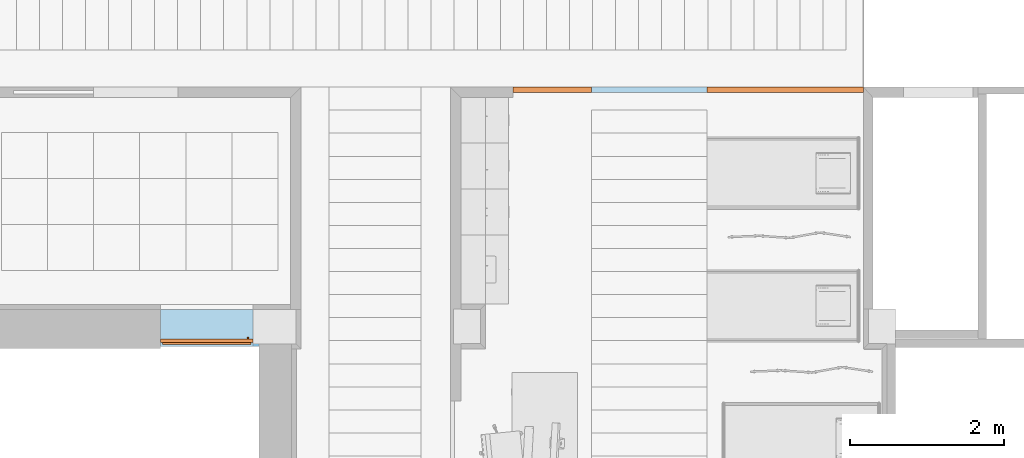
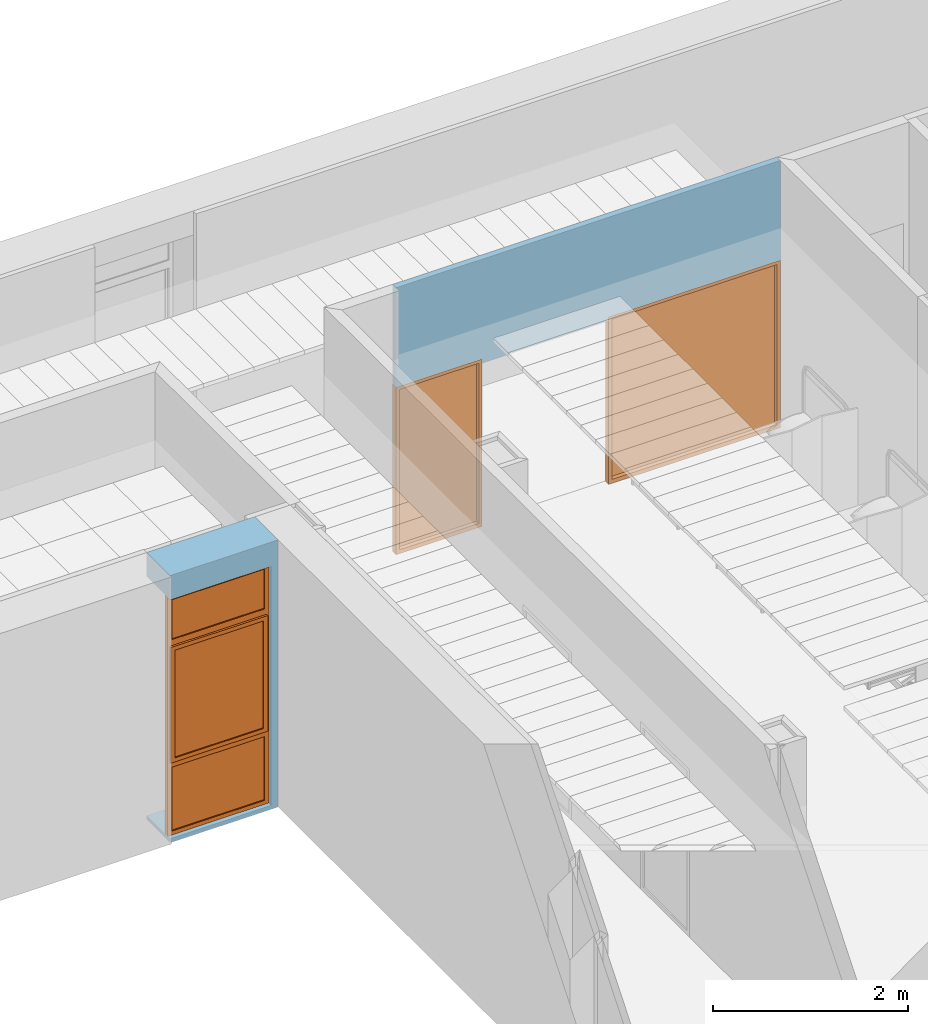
# One storey, part 58 of 68: 3 proxies, 4 openings, plus 2 elements that do not belong to this part.
"""IFC2X3 building model written with IfcOpenShell, lengths in millimetres."""

from ifc_helpers import new_model, entity, si_unit, converted_unit, derived_unit, money_unit, direction, frame, origin_with_axes, origin_2d_with_axis, place, context, subcontext, project, spatial, polyline, rectangle, outline, extrude, open_shell, faceted_brep, surface_model, material, layer, layer_set, layer_usage, type_object, element, fill, save


model = new_model("IFC2X3")

# Units and contexts
model_context = context("Model", 3, precision=0.01, world=origin_with_axes(), true_north=direction((0.0, 1.0)))
body_context = subcontext(model_context, "Body", "Model", "MODEL_VIEW")
ifc_project = project(units=[si_unit("LENGTHUNIT", "METRE", prefix="MILLI"), si_unit("AREAUNIT", "SQUARE_METRE"), si_unit("VOLUMEUNIT", "CUBIC_METRE"), converted_unit("PLANEANGLEUNIT", "DEGREE", entity("IfcPlaneAngleMeasure", 0.0174532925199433), si_unit("PLANEANGLEUNIT", "RADIAN"), dimensions=[0, 0, 0, 0, 0, 0, 0]), money_unit("USD"), converted_unit("TIMEUNIT", "Year", entity("IfcTimeMeasure", 31557600.0), si_unit("TIMEUNIT", "SECOND"), dimensions=[0, 0, 1, 0, 0, 0, 0]), si_unit("MASSUNIT", "GRAM", prefix="KILO"), si_unit("THERMODYNAMICTEMPERATUREUNIT", "DEGREE_CELSIUS"), si_unit("LUMINOUSINTENSITYUNIT", "LUMEN"), si_unit("ENERGYUNIT", "JOULE", prefix="MEGA"), derived_unit("THERMALCONDUCTANCEUNIT", [(si_unit("POWERUNIT", "WATT"), 1), (si_unit("LENGTHUNIT", "METRE"), -1), (si_unit("THERMODYNAMICTEMPERATUREUNIT", "KELVIN"), -1)]), derived_unit("SPECIFICHEATCAPACITYUNIT", [(si_unit("ENERGYUNIT", "JOULE"), 1), (si_unit("MASSUNIT", "GRAM", prefix="KILO"), -1), (si_unit("THERMODYNAMICTEMPERATUREUNIT", "KELVIN"), -1)]), derived_unit("MASSDENSITYUNIT", [(si_unit("MASSUNIT", "GRAM", prefix="KILO"), 1), (si_unit("VOLUMEUNIT", "CUBIC_METRE"), -1)])], contexts=[model_context])

# Site, building, storey
site_placement = place(None, origin_with_axes())
site = spatial("IfcSite", under=ifc_project, at=site_placement, Name="Sitio", CompositionType="ELEMENT")
building_placement = place(site_placement, origin_with_axes())
building = spatial("IfcBuilding", under=site, at=building_placement, Name="Construcción", CompositionType="ELEMENT")
storey_placement = place(building_placement, origin_with_axes())
storey = spatial("IfcBuildingStorey", under=building, at=storey_placement, Name="PLANTA 1ª", CompositionType="ELEMENT", Elevation=0.0)

# Wall, opening, proxy
ifc_material_1 = material(Name="ARQ_AM246_Arrebossat_De_Guix")
ifc_layer_1 = layer(ifc_material_1, 10.0, ventilated="UNKNOWN")
ifc_material_2 = material(Name="ARQ_CE217_Gero")
ifc_layer_2 = layer(ifc_material_2, 120.0, ventilated="UNKNOWN")
ifc_material_3 = material(Name="ARQ_AI031_Aillament_Poliestireno expandido EPS")
ifc_layer_3 = layer(ifc_material_3, 120.0, ventilated="UNKNOWN")
ifc_material_4 = material(Name="ARQ_CE218_Ceramic")
ifc_layer_4 = layer(ifc_material_4, 220.0, ventilated="UNKNOWN")
ifc_layer_5 = layer(ifc_material_1, 10.0, ventilated="UNKNOWN")
ifc_layer_set_1 = layer_set([ifc_layer_1, ifc_layer_2, ifc_layer_3, ifc_layer_4, ifc_layer_5], Name="façana pati CR2 (ampit)")
ifc_layer_usage_1 = layer_usage(ifc_layer_set_1, "AXIS2", "POSITIVE", -480.0)
wall_type_1 = type_object("IfcWallType", Name="façana pati CR2 (ampit) 480", PredefinedType="NOTDEFINED")
wall_1_placement = place(storey_placement, frame((-3383.431355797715, -1193.975823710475, 0.0), z_axis=(0.0, 0.0, 1.0), x_axis=(1.0, 0.0, 0.0)))
wall_1 = element("IfcWallStandardCase", 1, at=wall_1_placement, inside=storey, type_object=wall_type_1, material=ifc_layer_usage_1, Name="MS-200", context=body_context, shape_type="SweptSolid", body=[
    extrude(outline(polyline([(0.0, -480.0), (1282.322350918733, -480.0), (1282.322350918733, 0.0), (0.0, 0.0), (0.0, -480.0)])), origin_with_axes(), (0.0, 0.0, 1.0), 3350.0),
])
opening_1_placement = place(wall_1_placement, frame((599.9999999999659, 0.0, 50.0), z_axis=(0.0, 0.0, 1.0), x_axis=(1.0, 0.0, 0.0)))
opening_1 = element("IfcOpeningElement", 2, at=opening_1_placement, cuts=wall_1, Name="F01", context=body_context, shape_type="SweptSolid", body=[
    extrude(rectangle(XDim=1199.999999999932, YDim=3000.0, at=origin_2d_with_axis()), frame((0.0, -429.9999999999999, 1500.0), z_axis=(0.0, -1.0, 0.0), x_axis=(-1.0, 0.0, 0.0)), (0.0, 0.0, -1.0), 909.9999999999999),
    extrude(rectangle(XDim=1199.999999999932, YDim=3000.0, at=origin_2d_with_axis()), frame((0.0, -429.9999999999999, 1500.0), z_axis=(0.0, 1.0, 0.0), x_axis=(-1.0, 0.0, 0.0)), (0.0, 0.0, -1.0), 530.0),
])
building_element_proxy_type_1 = type_object("IfcBuildingElementProxyType", Name="Ventana Vertical Multi-Faja 27", PredefinedType="NOTDEFINED")
proxy_1_placement = place(opening_1_placement, frame((599.9999999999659, 0.0, 0.0), z_axis=(0.0, 0.0, 1.0), x_axis=(-1.0, 0.0, 0.0)))
proxy_1 = element("IfcBuildingElementProxy", 3, at=proxy_1_placement, inside=storey, type_object=building_element_proxy_type_1, Name="F01", context=body_context, shape_type="SurfaceModel", body=[
    faceted_brep([(24.99999999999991, 429.9999999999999, 925.0), (49.99999999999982, 429.9999999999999, 925.0), (49.99999999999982, 429.9999999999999, 850.0), (49.99999999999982, 429.9999999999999, 50.00000000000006), (0.0, 429.9999999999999, 50.00000000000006), (0.0, 429.9999999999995, 2950.0), (49.99999999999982, 429.9999999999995, 2950.0), (49.99999999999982, 429.9999999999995, 2450.0), (49.99999999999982, 429.9999999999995, 2375.0), (24.99999999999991, 429.9999999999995, 2375.0), (24.99999999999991, 404.9999999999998, 925.0), (49.99999999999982, 404.9999999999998, 925.0), (49.99999999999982, 404.9999999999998, 950.0), (49.99999999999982, 379.9999999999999, 950.0), (49.99999999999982, 379.9999999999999, 850.0), (49.99999999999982, 379.9999999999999, 50.00000000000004), (0.0, 379.9999999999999, 50.00000000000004), (0.0, 379.9999999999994, 2950.0), (49.99999999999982, 379.9999999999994, 2950.0), (49.99999999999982, 379.9999999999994, 2450.0), (49.99999999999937, 404.9999999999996, 2375.0), (49.99999999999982, 379.9999999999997, 2350.0), (49.99999999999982, 404.9999999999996, 2350.0), (24.99999999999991, 404.9999999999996, 2375.0)], [[[0, 1, 2, 3, 4, 5, 6, 7, 8, 9]], [[0, 10, 11, 1]], [[11, 12, 13, 14, 2, 1]], [[3, 2, 14, 15]], [[4, 3, 15, 16]], [[5, 4, 16, 17]], [[6, 5, 17, 18]], [[7, 6, 18, 19]], [[20, 8, 7, 19, 21, 22]], [[20, 23, 9, 8]], [[9, 23, 10, 0]], [[22, 12, 11, 10, 23, 20]], [[22, 21, 13, 12]], [[17, 16, 15, 14, 13, 21, 19, 18]]]),
    faceted_brep([(1174.999999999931, 429.9999999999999, 925.0), (1174.999999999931, 429.9999999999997, 2375.0), (1149.999999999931, 429.9999999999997, 2375.0), (1149.999999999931, 429.9999999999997, 2450.0), (1149.999999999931, 429.9999999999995, 2950.0), (1199.999999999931, 429.9999999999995, 2950.0), (1199.999999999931, 430.0000000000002, 50.00000000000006), (1149.999999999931, 430.0000000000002, 50.00000000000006), (1149.999999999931, 429.9999999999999, 850.0), (1149.999999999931, 429.9999999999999, 925.0), (1174.999999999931, 405.0, 925.0), (1174.999999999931, 404.9999999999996, 2375.0), (1149.999999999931, 404.9999999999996, 2375.0), (1149.999999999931, 404.9999999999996, 2350.0), (1149.999999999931, 379.9999999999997, 2350.0), (1149.999999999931, 379.9999999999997, 2450.0), (1149.999999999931, 379.9999999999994, 2950.0), (1199.999999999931, 379.9999999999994, 2950.0), (1199.999999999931, 380.0000000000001, 50.00000000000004), (1149.999999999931, 380.0000000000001, 50.00000000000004), (1149.999999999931, 379.9999999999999, 850.0), (1149.999999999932, 405.0, 925.0), (1149.999999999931, 379.9999999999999, 950.0), (1149.999999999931, 405.0, 950.0)], [[[0, 1, 2, 3, 4, 5, 6, 7, 8, 9]], [[0, 10, 11, 1]], [[1, 11, 12, 2]], [[12, 13, 14, 15, 3, 2]], [[4, 3, 15, 16]], [[5, 4, 16, 17]], [[6, 5, 17, 18]], [[7, 6, 18, 19]], [[8, 7, 19, 20]], [[21, 9, 8, 20, 22, 23]], [[9, 21, 10, 0]], [[12, 11, 10, 21, 23, 13]], [[23, 22, 14, 13]], [[14, 22, 20, 19, 18, 17, 16, 15]]]),
    faceted_brep([(49.99999999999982, 404.9999999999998, 950.0), (49.99999999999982, 379.9999999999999, 950.0), (1149.999999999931, 379.9999999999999, 950.0), (1149.999999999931, 405.0, 950.0), (49.99999999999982, 404.9999999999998, 925.0), (49.99999999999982, 429.9999999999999, 925.0), (49.99999999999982, 429.9999999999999, 850.0), (49.99999999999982, 379.9999999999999, 850.0), (1149.999999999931, 379.9999999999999, 850.0), (1149.999999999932, 405.0, 925.0), (1149.999999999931, 429.9999999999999, 850.0), (1149.999999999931, 429.9999999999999, 925.0)], [[[0, 1, 2, 3]], [[4, 5, 6, 7, 1, 0]], [[1, 7, 8, 2]], [[9, 3, 2, 8, 10, 11]], [[9, 4, 0, 3]], [[5, 4, 9, 11]], [[11, 10, 6, 5]], [[6, 10, 8, 7]]]),
    faceted_brep([(49.99999999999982, 429.9999999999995, 2375.0), (49.99999999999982, 429.9999999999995, 2450.0), (1149.999999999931, 429.9999999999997, 2450.0), (1149.999999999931, 429.9999999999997, 2375.0), (49.99999999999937, 404.9999999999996, 2375.0), (49.99999999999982, 404.9999999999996, 2350.0), (49.99999999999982, 379.9999999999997, 2350.0), (49.99999999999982, 379.9999999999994, 2450.0), (1149.999999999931, 379.9999999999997, 2450.0), (1149.999999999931, 404.9999999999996, 2375.0), (1149.999999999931, 379.9999999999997, 2350.0), (1149.999999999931, 404.9999999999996, 2350.0)], [[[0, 1, 2, 3]], [[4, 5, 6, 7, 1, 0]], [[2, 1, 7, 8]], [[9, 3, 2, 8, 10, 11]], [[9, 4, 0, 3]], [[11, 5, 4, 9]], [[11, 10, 6, 5]], [[7, 6, 10, 8]]]),
    faceted_brep([(1149.999999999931, 379.9999999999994, 2950.0), (1149.999999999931, 429.9999999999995, 2950.0), (1199.999999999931, 429.9999999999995, 2950.0), (1199.999999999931, 379.9999999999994, 2950.0), (49.99999999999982, 379.9999999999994, 2950.0), (49.99999999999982, 429.9999999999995, 2950.0), (0.0, 429.9999999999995, 2950.0), (0.0, 429.9999999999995, 3000.0), (1199.999999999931, 429.9999999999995, 3000.0), (1199.999999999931, 379.9999999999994, 3000.0), (0.0, 379.9999999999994, 3000.0), (0.0, 379.9999999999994, 2950.0)], [[[0, 1, 2, 3]], [[4, 5, 1, 0]], [[1, 5, 6, 7, 8, 2]], [[3, 2, 8, 9]], [[0, 3, 9, 10, 11, 4]], [[11, 6, 5, 4]], [[10, 7, 6, 11]], [[9, 8, 7, 10]]]),
    faceted_brep([(49.99999999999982, 379.9999999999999, 50.0), (49.99999999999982, 429.9999999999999, 50.0), (0.0, 429.9999999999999, 50.0), (0.0, 379.9999999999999, 50.0), (1149.999999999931, 380.0000000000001, 50.0), (1149.999999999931, 430.0000000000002, 50.0), (1199.999999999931, 430.0000000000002, 50.0), (1199.999999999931, 430.0000000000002, 0.0), (0.0, 429.9999999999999, 0.0), (0.0, 380.0000000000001, 0.0), (1199.999999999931, 380.0000000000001, 0.0), (1199.999999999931, 380.0000000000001, 50.0)], [[[0, 1, 2, 3]], [[4, 5, 1, 0]], [[1, 5, 6, 7, 8, 2]], [[3, 2, 8, 9]], [[0, 3, 9, 10, 11, 4]], [[11, 6, 5, 4]], [[10, 7, 6, 11]], [[9, 8, 7, 10]]]),
    surface_model("IfcShellBasedSurfaceModel", [(49.99999999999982, 395.0, 50.0), (1149.999999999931, 395.0, 50.0), (1149.999999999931, 395.0, 850.0), (49.99999999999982, 394.9999999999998, 850.0)], [open_shell([[[0, 1, 2, 3]]])]),
    surface_model("IfcShellBasedSurfaceModel", [(49.99999999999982, 415.0000000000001, 50.0), (49.99999999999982, 414.9999999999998, 850.0), (1149.999999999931, 415.0000000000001, 850.0), (1149.999999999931, 415.0000000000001, 50.0)], [open_shell([[[0, 1, 2, 3]]])]),
    faceted_brep([(78.49999999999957, 404.9999999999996, 1677.0), (77.16025403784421, 404.9999999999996, 1682.0), (77.16025403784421, 392.9999999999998, 1682.0), (78.49999999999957, 392.9999999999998, 1677.0), (78.49999999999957, 404.9999999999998, 1623.0), (77.16025403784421, 404.9999999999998, 1618.0), (73.49999999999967, 404.9999999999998, 1614.339745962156), (68.49999999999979, 404.9999999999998, 1613.0), (56.49999999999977, 404.9999999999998, 1613.0), (51.49999999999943, 404.9999999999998, 1614.339745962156), (47.83974596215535, 404.9999999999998, 1618.0), (46.49999999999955, 404.9999999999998, 1623.0), (46.49999999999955, 404.9999999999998, 1677.0), (47.83974596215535, 404.9999999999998, 1682.0), (51.49999999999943, 404.9999999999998, 1685.660254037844), (56.49999999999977, 404.9999999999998, 1687.0), (68.49999999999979, 404.9999999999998, 1687.0), (73.49999999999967, 404.9999999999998, 1685.660254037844), (73.49999999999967, 392.9999999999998, 1685.660254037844), (68.49999999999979, 392.9999999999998, 1687.0), (56.49999999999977, 392.9999999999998, 1687.0), (51.49999999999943, 392.9999999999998, 1685.660254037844), (47.83974596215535, 392.9999999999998, 1682.0), (46.49999999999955, 392.9999999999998, 1677.0), (46.49999999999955, 392.9999999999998, 1623.0), (47.83974596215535, 392.9999999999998, 1618.0), (51.49999999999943, 392.9999999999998, 1614.339745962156), (56.49999999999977, 392.9999999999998, 1613.0), (68.49999999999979, 392.9999999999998, 1613.0), (73.49999999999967, 392.9999999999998, 1614.339745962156), (77.16025403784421, 392.9999999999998, 1618.0), (78.49999999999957, 392.9999999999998, 1623.0)], [[[0, 1, 2, 3]], [[0, 4, 5, 6, 7, 8, 9, 10, 11, 12, 13, 14, 15, 16, 17, 1]], [[1, 17, 18, 2]], [[3, 2, 18, 19, 20, 21, 22, 23, 24, 25, 26, 27, 28, 29, 30, 31]], [[4, 0, 3, 31]], [[5, 4, 31, 30]], [[6, 5, 30, 29]], [[7, 6, 29, 28]], [[8, 7, 28, 27]], [[9, 8, 27, 26]], [[10, 9, 26, 25]], [[11, 10, 25, 24]], [[12, 11, 24, 23]], [[13, 12, 23, 22]], [[14, 13, 22, 21]], [[15, 14, 21, 20]], [[16, 15, 20, 19]], [[17, 16, 19, 18]]]),
    faceted_brep([(62.49999999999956, 392.9999999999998, 1663.5), (55.74999999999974, 392.9999999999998, 1661.69134295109), (55.74999999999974, 368.9999999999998, 1661.69134295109), (62.49999999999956, 368.9999999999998, 1663.5), (69.24999999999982, 392.9999999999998, 1661.69134295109), (74.19134295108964, 392.9999999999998, 1656.75), (75.99999999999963, 392.9999999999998, 1650.0), (74.19134295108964, 392.9999999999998, 1643.25), (69.24999999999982, 392.9999999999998, 1638.30865704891), (62.49999999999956, 392.9999999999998, 1636.5), (55.74999999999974, 392.9999999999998, 1638.30865704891), (50.80865704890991, 392.9999999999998, 1643.25), (48.99999999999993, 392.9999999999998, 1650.0), (50.80865704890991, 392.9999999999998, 1656.75), (50.80865704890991, 368.9999999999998, 1656.75), (48.99999999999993, 368.9999999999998, 1650.0), (50.80865704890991, 368.9999999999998, 1643.25), (55.74999999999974, 368.9999999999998, 1638.30865704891), (62.49999999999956, 368.9999999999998, 1636.5), (69.24999999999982, 368.9999999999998, 1638.30865704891), (74.19134295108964, 368.9999999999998, 1643.25), (75.99999999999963, 368.9999999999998, 1650.0), (74.19134295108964, 368.9999999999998, 1656.75), (69.24999999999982, 368.9999999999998, 1661.69134295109)], [[[0, 1, 2, 3]], [[0, 4, 5, 6, 7, 8, 9, 10, 11, 12, 13, 1]], [[1, 13, 14, 2]], [[3, 2, 14, 15, 16, 17, 18, 19, 20, 21, 22, 23]], [[4, 0, 3, 23]], [[5, 4, 23, 22]], [[6, 5, 22, 21]], [[7, 6, 21, 20]], [[8, 7, 20, 19]], [[9, 8, 19, 18]], [[10, 9, 18, 17]], [[11, 10, 17, 16]], [[12, 11, 16, 15]], [[13, 12, 15, 14]]]),
    faceted_brep([(73.9999999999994, 368.9999999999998, 1543.0), (62.49999999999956, 368.9999999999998, 1540.0), (50.99999999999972, 368.9999999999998, 1543.0), (48.99999999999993, 368.9999999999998, 1546.0), (48.99999999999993, 368.9999999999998, 1650.0), (50.80865704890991, 368.9999999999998, 1656.75), (55.74999999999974, 368.9999999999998, 1661.69134295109), (62.49999999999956, 368.9999999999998, 1663.5), (69.24999999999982, 368.9999999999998, 1661.69134295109), (74.19134295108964, 368.9999999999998, 1656.75), (75.99999999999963, 368.9999999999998, 1650.0), (75.99999999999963, 368.9999999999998, 1546.0), (74.0000000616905, 360.9999999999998, 1543.000000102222), (62.50000003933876, 360.9999999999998, 1539.999999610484), (51.00000001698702, 360.9999999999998, 1543.000000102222), (48.99999968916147, 360.9999999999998, 1545.999999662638), (48.99999968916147, 360.9999999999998, 1649.99999994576), (50.80865700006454, 360.9999999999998, 1656.749999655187), (55.7500003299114, 360.9999999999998, 1661.691342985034), (62.50000003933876, 360.9999999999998, 1663.500000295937), (69.24999974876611, 360.9999999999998, 1661.691342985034), (74.19134307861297, 360.9999999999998, 1656.749999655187), (76.00000038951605, 360.9999999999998, 1649.99999994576), (76.00000038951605, 360.9999999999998, 1545.999999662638), (72.13746253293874, 358.000000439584, 1545.61451963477), (62.50000003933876, 358.000000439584, 1543.100398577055), (52.86253754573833, 358.000000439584, 1545.61451963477), (51.99999924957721, 358.000000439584, 1546.908326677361), (51.99999924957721, 358.000000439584, 1649.605042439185), (53.49838296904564, 358.000000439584, 1655.197085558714), (57.30291442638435, 358.000000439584, 1659.001617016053), (62.50000003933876, 358.000000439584, 1660.394172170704), (67.69708565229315, 358.000000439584, 1659.001617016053), (71.50161710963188, 358.000000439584, 1655.197085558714), (73.0000008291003, 358.000000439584, 1649.605042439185), (73.0000008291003, 358.000000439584, 1546.908326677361)], [[[0, 1, 2, 3, 4, 5, 6, 7, 8, 9, 10, 11]], [[1, 0, 12, 13]], [[2, 1, 13, 14]], [[3, 2, 14, 15]], [[4, 3, 15, 16]], [[5, 4, 16, 17]], [[6, 5, 17, 18]], [[7, 6, 18, 19]], [[8, 7, 19, 20]], [[9, 8, 20, 21]], [[10, 9, 21, 22]], [[11, 10, 22, 23]], [[0, 11, 23, 12]], [[13, 12, 24, 25]], [[14, 13, 25, 26]], [[15, 14, 26, 27]], [[16, 15, 27, 28]], [[17, 16, 28, 29]], [[18, 17, 29, 30]], [[19, 18, 30, 31]], [[20, 19, 31, 32]], [[21, 20, 32, 33]], [[22, 21, 33, 34]], [[23, 22, 34, 35]], [[12, 23, 35, 24]], [[26, 25, 24, 35, 34, 33, 32, 31, 30, 29, 28, 27]]]),
    faceted_brep([(74.99999999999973, 404.9999999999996, 2325.0), (74.99999999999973, 454.9999999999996, 2325.0), (24.99999999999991, 454.9999999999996, 2325.0), (24.99999999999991, 404.9999999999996, 2325.0), (74.99999999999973, 404.9999999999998, 975.0000000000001), (74.99999999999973, 454.9999999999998, 975.0000000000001), (24.99999999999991, 454.9999999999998, 975.0000000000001), (24.99999999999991, 404.9999999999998, 975.0000000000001)], [[[0, 1, 2, 3]], [[4, 5, 1, 0]], [[1, 5, 6, 2]], [[3, 2, 6, 7]], [[0, 3, 7, 4]], [[7, 6, 5, 4]]]),
    faceted_brep([(1124.999999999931, 404.9999999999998, 975.0000000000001), (1124.999999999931, 454.9999999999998, 975.0000000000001), (1174.999999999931, 454.9999999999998, 975.0000000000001), (1174.999999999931, 404.9999999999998, 975.0000000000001), (1124.999999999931, 404.9999999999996, 2325.0), (1124.999999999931, 454.9999999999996, 2325.0), (1174.999999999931, 454.9999999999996, 2325.0), (1174.999999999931, 404.9999999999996, 2325.0)], [[[0, 1, 2, 3]], [[4, 5, 1, 0]], [[1, 5, 6, 2]], [[3, 2, 6, 7]], [[0, 3, 7, 4]], [[7, 6, 5, 4]]]),
    faceted_brep([(1174.999999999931, 404.9999999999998, 925.0), (1174.999999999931, 454.9999999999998, 925.0), (1174.999999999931, 454.9999999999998, 975.0000000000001), (1174.999999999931, 404.9999999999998, 975.0000000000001), (24.99999999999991, 404.9999999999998, 925.0), (24.99999999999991, 454.9999999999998, 925.0), (24.99999999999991, 454.9999999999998, 975.0000000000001), (74.99999999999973, 454.9999999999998, 975.0000000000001), (1124.999999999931, 454.9999999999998, 975.0000000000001), (1124.999999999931, 404.9999999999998, 975.0000000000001), (74.99999999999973, 404.9999999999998, 975.0000000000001), (24.99999999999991, 404.9999999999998, 975.0000000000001)], [[[0, 1, 2, 3]], [[4, 5, 1, 0]], [[1, 5, 6, 7, 8, 2]], [[3, 2, 8, 9]], [[0, 3, 9, 10, 11, 4]], [[11, 6, 5, 4]], [[10, 7, 6, 11]], [[9, 8, 7, 10]]]),
    faceted_brep([(24.99999999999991, 404.9999999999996, 2375.0), (24.99999999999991, 454.9999999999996, 2375.0), (24.99999999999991, 454.9999999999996, 2325.0), (24.99999999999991, 404.9999999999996, 2325.0), (1174.999999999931, 404.9999999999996, 2375.0), (1174.999999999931, 454.9999999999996, 2375.0), (1174.999999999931, 454.9999999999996, 2325.0), (1124.999999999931, 454.9999999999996, 2325.0), (74.99999999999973, 454.9999999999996, 2325.0), (74.99999999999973, 404.9999999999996, 2325.0), (1124.999999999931, 404.9999999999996, 2325.0), (1174.999999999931, 404.9999999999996, 2325.0)], [[[0, 1, 2, 3]], [[4, 5, 1, 0]], [[1, 5, 6, 7, 8, 2]], [[3, 2, 8, 9]], [[0, 3, 9, 10, 11, 4]], [[11, 6, 5, 4]], [[10, 7, 6, 11]], [[9, 8, 7, 10]]]),
    surface_model("IfcShellBasedSurfaceModel", [(74.99999999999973, 419.9999999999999, 975.0000000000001), (1124.999999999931, 419.9999999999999, 975.0000000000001), (1124.999999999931, 419.9999999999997, 2325.0), (74.99999999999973, 419.9999999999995, 2325.0)], [open_shell([[[0, 1, 2, 3]]])]),
    surface_model("IfcShellBasedSurfaceModel", [(74.99999999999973, 439.9999999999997, 975.0000000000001), (74.99999999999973, 439.9999999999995, 2325.0), (1124.999999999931, 439.9999999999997, 2325.0), (1124.999999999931, 439.9999999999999, 975.0000000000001)], [open_shell([[[0, 1, 2, 3]]])]),
    surface_model("IfcShellBasedSurfaceModel", [(49.99999999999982, 394.9999999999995, 2450.0), (1149.999999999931, 394.9999999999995, 2450.0), (1149.999999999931, 394.9999999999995, 2950.0), (49.99999999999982, 394.9999999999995, 2950.0)], [open_shell([[[0, 1, 2, 3]]])]),
    surface_model("IfcShellBasedSurfaceModel", [(49.99999999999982, 414.9999999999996, 2450.0), (49.99999999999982, 414.9999999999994, 2950.0), (1149.999999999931, 414.9999999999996, 2950.0), (1149.999999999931, 414.9999999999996, 2450.0)], [open_shell([[[0, 1, 2, 3]]])]),
])
fill(opening_1, proxy_1)

# Wall, openings, proxies
ifc_material_5 = material(Name="Panel de Yeso Laminado")
ifc_layer_6 = layer(ifc_material_5, 5.0, ventilated="UNKNOWN")
ifc_material_6 = material(Name="ARQ_AI033_Aillament_Llana_De_Roca")
ifc_layer_7 = layer(ifc_material_6, 60.0, ventilated="UNKNOWN")
ifc_layer_8 = layer(ifc_material_5, 5.0, ventilated="UNKNOWN")
ifc_layer_set_2 = layer_set([ifc_layer_6, ifc_layer_7, ifc_layer_8], Name="CR- MAMPARA")
ifc_layer_usage_2 = layer_usage(ifc_layer_set_2, "AXIS2", "POSITIVE", -70.0)
wall_type_2 = type_object("IfcWallType", Name="CR- MAMPARA 70", PredefinedType="NOTDEFINED")
wall_2_placement = place(storey_placement, frame((1205.037203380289, 1700.853055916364, 0.0), z_axis=(0.0, 0.0, 1.0), x_axis=(1.0, 0.0, 0.0)))
wall_2 = element("IfcWallStandardCase", 4, at=wall_2_placement, inside=storey, type_object=wall_type_2, material=ifc_layer_usage_2, Name="MS-212", context=body_context, shape_type="SweptSolid", body=[
    extrude(outline(polyline([(0.0, -70.00000000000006), (4558.85379170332, -70.00000000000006), (4558.85379170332, 0.0), (0.0, 0.0), (0.0, -70.00000000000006)])), origin_with_axes(), (0.0, 0.0, 1.0), 3350.0),
])
opening_2_placement = place(wall_2_placement, frame((510.8960263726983, 0.0, 0.0), z_axis=(0.0, 0.0, 1.0), x_axis=(1.0, 0.0, 0.0)))
opening_2 = element("IfcOpeningElement", 5, at=opening_2_placement, cuts=wall_2, Name="M-08", context=body_context, shape_type="SweptSolid", body=[
    extrude(rectangle(XDim=1021.792052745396, YDim=2100.0, at=origin_2d_with_axis()), frame((0.0, -69.99999999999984, 1050.0), z_axis=(0.0, 1.0, 0.0), x_axis=(1.0, 0.0, 0.0)), (0.0, 0.0, 1.0), 210.0),
])
opening_3_placement = place(wall_2_placement, frame((3540.322922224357, 0.0, 0.0), z_axis=(0.0, 0.0, 1.0), x_axis=(1.0, 0.0, 0.0)))
opening_3 = element("IfcOpeningElement", 6, at=opening_3_placement, cuts=wall_2, Name="M-09", context=body_context, shape_type="SweptSolid", body=[
    extrude(rectangle(XDim=2037.061738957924, YDim=2100.0, at=origin_2d_with_axis()), frame((0.0, -69.99999999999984, 1050.0), z_axis=(0.0, 1.0, 0.0), x_axis=(1.0, 0.0, 0.0)), (0.0, 0.0, 1.0), 210.0),
])
opening_4_placement = place(wall_2_placement, frame((1771.792052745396, 0.0, 0.0), z_axis=(0.0, 0.0, 1.0), x_axis=(1.0, 0.0, 0.0)))
element("IfcOpeningElement", 7, at=opening_4_placement, cuts=wall_2, Name="PF-19D", context=body_context, shape_type="SweptSolid", body=[
    extrude(rectangle(XDim=1500.0, YDim=2050.0, at=origin_2d_with_axis()), frame((0.0, -69.99999999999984, 1025.0), z_axis=(0.0, -1.0, 0.0), x_axis=(1.0, 0.0, 0.0)), (0.0, 0.0, -1.0), 210.0),
])
building_element_proxy_type_2 = type_object("IfcBuildingElementProxyType", Name="Ventana Escaparate 27", PredefinedType="NOTDEFINED")
proxy_2_placement = place(opening_2_placement, frame((-510.8960263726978, 0.0, 0.0), z_axis=(0.0, 0.0, 1.0), x_axis=(1.0, 0.0, 0.0)))
proxy_2 = element("IfcBuildingElementProxy", 8, at=proxy_2_placement, inside=storey, type_object=building_element_proxy_type_2, Name="M-08", context=body_context, shape_type="Brep", body=[
    faceted_brep([(0.0, 0.0, 2060.0), (0.0, 0.0, 49.99999999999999), (0.0, -70.00000000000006, 50.0), (0.0, -69.99999999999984, 2060.0), (40.00000000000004, 0.0, 2060.0), (40.00000000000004, 0.0, 49.99999999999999), (40.00000000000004, -70.00000000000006, 50.0), (40.00000000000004, -69.99999999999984, 2060.0)], [[[0, 1, 2, 3]], [[0, 4, 5, 1]], [[1, 5, 6, 2]], [[3, 2, 6, 7]], [[4, 0, 3, 7]], [[5, 4, 7, 6]]]),
    faceted_brep([(1021.792052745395, 0.0, 49.99999999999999), (1021.792052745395, 0.0, 2060.0), (1021.792052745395, -69.99999999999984, 2060.0), (1021.792052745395, -70.00000000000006, 50.0), (981.7920527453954, 0.0, 49.99999999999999), (981.7920527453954, 0.0, 2060.0), (981.7920527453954, -69.99999999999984, 2060.0), (981.7920527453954, -70.00000000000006, 50.0)], [[[0, 1, 2, 3]], [[0, 4, 5, 1]], [[1, 5, 6, 2]], [[3, 2, 6, 7]], [[4, 0, 3, 7]], [[5, 4, 7, 6]]]),
    faceted_brep([(1021.792052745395, 0.0, 2100.0), (0.0, 0.0, 2100.0), (0.0, -69.99999999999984, 2100.0), (1021.792052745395, -69.99999999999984, 2100.0), (1021.792052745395, 0.0, 2060.0), (981.7920527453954, 0.0, 2060.0), (40.00000000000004, 0.0, 2060.0), (0.0, 0.0, 2060.0), (0.0, -69.99999999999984, 2060.0), (40.00000000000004, -69.99999999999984, 2060.0), (981.7920527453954, -69.99999999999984, 2060.0), (1021.792052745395, -69.99999999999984, 2060.0)], [[[0, 1, 2, 3]], [[0, 4, 5, 6, 7, 1]], [[1, 7, 8, 2]], [[3, 2, 8, 9, 10, 11]], [[4, 0, 3, 11]], [[5, 4, 11, 10]], [[6, 5, 10, 9]], [[7, 6, 9, 8]]]),
    faceted_brep([(1021.792052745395, 0.0, 49.99999999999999), (981.7920527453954, 0.0, 49.99999999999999), (981.7920527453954, -70.00000000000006, 50.0), (1021.792052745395, -70.00000000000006, 50.0), (1021.792052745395, 0.0, 0.0), (0.0, 0.0, 0.0), (0.0, 0.0, 49.99999999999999), (40.00000000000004, 0.0, 49.99999999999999), (40.00000000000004, -70.00000000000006, 50.0), (0.0, -70.00000000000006, 50.0), (0.0, -70.00000000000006, 0.0), (1021.792052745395, -70.00000000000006, 0.0)], [[[0, 1, 2, 3]], [[0, 4, 5, 6, 7, 1]], [[1, 7, 8, 2]], [[3, 2, 8, 9, 10, 11]], [[4, 0, 3, 11]], [[5, 4, 11, 10]], [[6, 5, 10, 9]], [[7, 6, 9, 8]]]),
    faceted_brep([(40.00000000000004, -10.00000000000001, 49.99999999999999), (981.7920527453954, -10.00000000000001, 49.99999999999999), (981.7920527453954, -20.00000000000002, 49.99999999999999), (40.00000000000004, -20.00000000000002, 49.99999999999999), (40.00000000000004, -9.999999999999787, 2060.0), (981.7920527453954, -9.999999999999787, 2060.0), (981.7920527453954, -19.99999999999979, 2060.0), (40.00000000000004, -19.99999999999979, 2060.0)], [[[0, 1, 2, 3]], [[0, 4, 5, 1]], [[1, 5, 6, 2]], [[3, 2, 6, 7]], [[4, 0, 3, 7]], [[5, 4, 7, 6]]]),
])
fill(opening_2, proxy_2)
proxy_3_placement = place(opening_3_placement, frame((-1018.530869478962, 0.0, 0.0), z_axis=(0.0, 0.0, 1.0), x_axis=(1.0, 0.0, 0.0)))
proxy_3 = element("IfcBuildingElementProxy", 9, at=proxy_3_placement, inside=storey, type_object=building_element_proxy_type_2, Name="M-09", context=body_context, shape_type="Brep", body=[
    faceted_brep([(0.0, 0.0, 2060.0), (0.0, 0.0, 49.99999999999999), (0.0, -69.99999999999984, 50.0), (0.0, -69.99999999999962, 2060.0), (40.00000000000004, 0.0, 2060.0), (40.00000000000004, 0.0, 49.99999999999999), (40.00000000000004, -69.99999999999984, 50.0), (40.00000000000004, -69.99999999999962, 2060.0)], [[[0, 1, 2, 3]], [[0, 4, 5, 1]], [[1, 5, 6, 2]], [[3, 2, 6, 7]], [[4, 0, 3, 7]], [[5, 4, 7, 6]]]),
    faceted_brep([(2037.061738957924, 0.0, 49.99999999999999), (2037.061738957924, 0.0, 2060.0), (2037.061738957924, -69.99999999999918, 2060.0), (2037.061738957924, -69.9999999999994, 50.0), (1997.061738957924, 0.0, 49.99999999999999), (1997.061738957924, 0.0, 2060.0), (1997.061738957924, -69.99999999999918, 2060.0), (1997.061738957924, -69.9999999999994, 50.0)], [[[0, 1, 2, 3]], [[0, 4, 5, 1]], [[1, 5, 6, 2]], [[3, 2, 6, 7]], [[4, 0, 3, 7]], [[5, 4, 7, 6]]]),
    faceted_brep([(2037.061738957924, 0.0, 2100.0), (0.0, 0.0, 2100.0), (0.0, -69.99999999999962, 2100.0), (2037.061738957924, -69.99999999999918, 2100.0), (2037.061738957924, 0.0, 2060.0), (1997.061738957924, 0.0, 2060.0), (40.00000000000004, 0.0, 2060.0), (0.0, 0.0, 2060.0), (0.0, -69.99999999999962, 2060.0), (40.00000000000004, -69.99999999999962, 2060.0), (1997.061738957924, -69.99999999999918, 2060.0), (2037.061738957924, -69.99999999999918, 2060.0)], [[[0, 1, 2, 3]], [[0, 4, 5, 6, 7, 1]], [[1, 7, 8, 2]], [[3, 2, 8, 9, 10, 11]], [[4, 0, 3, 11]], [[5, 4, 11, 10]], [[6, 5, 10, 9]], [[7, 6, 9, 8]]]),
    faceted_brep([(2037.061738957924, 0.0, 49.99999999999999), (1997.061738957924, 0.0, 49.99999999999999), (1997.061738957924, -69.9999999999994, 50.0), (2037.061738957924, -69.9999999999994, 50.0), (2037.061738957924, 0.0, 0.0), (0.0, 0.0, 0.0), (0.0, 0.0, 49.99999999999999), (40.00000000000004, 0.0, 49.99999999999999), (40.00000000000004, -69.99999999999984, 50.0), (0.0, -69.99999999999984, 50.0), (0.0, -69.99999999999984, 0.0), (2037.061738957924, -69.9999999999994, 0.0)], [[[0, 1, 2, 3]], [[0, 4, 5, 6, 7, 1]], [[1, 7, 8, 2]], [[3, 2, 8, 9, 10, 11]], [[4, 0, 3, 11]], [[5, 4, 11, 10]], [[6, 5, 10, 9]], [[7, 6, 9, 8]]]),
    faceted_brep([(40.00000000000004, -9.999999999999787, 49.99999999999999), (1997.061738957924, -9.999999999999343, 49.99999999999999), (1997.061738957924, -19.99999999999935, 49.99999999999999), (40.00000000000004, -19.99999999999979, 49.99999999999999), (40.00000000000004, -9.999999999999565, 2060.0), (1997.061738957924, -9.99999999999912, 2060.0), (1997.061738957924, -19.99999999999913, 2060.0), (40.00000000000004, -19.99999999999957, 2060.0)], [[[0, 1, 2, 3]], [[0, 4, 5, 1]], [[1, 5, 6, 2]], [[3, 2, 6, 7]], [[4, 0, 3, 7]], [[5, 4, 7, 6]]]),
])
fill(opening_3, proxy_3)

save(model, "model.ifc")
